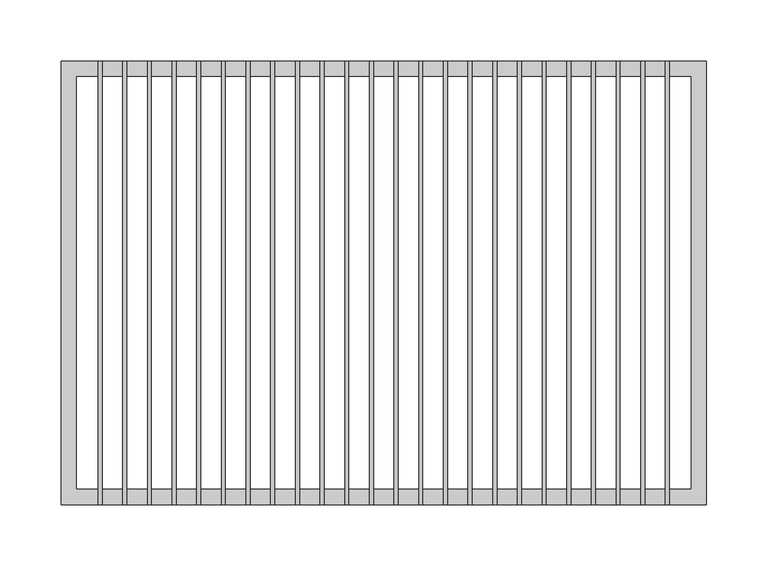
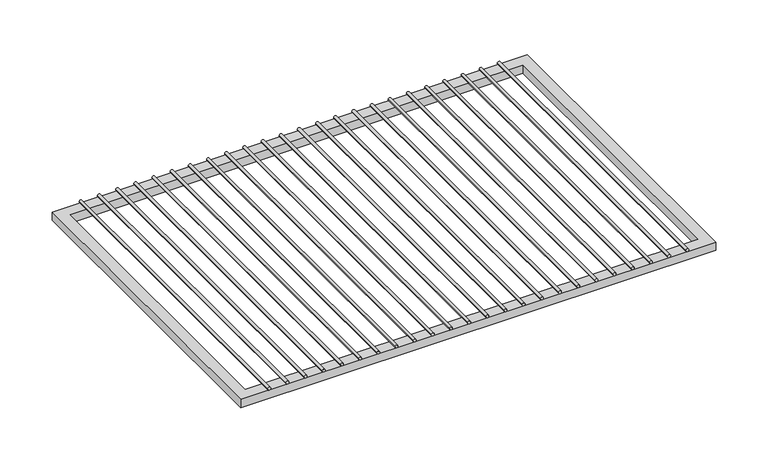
"""IFC4 building model written with IfcOpenShell, lengths in millimetres: furniture geometry, HermanMiller_CoStruc_CO252_CWireShelf : 14D x 20W."""

from ifc_helpers import new_model, si_unit, point, frame, frame_2d, origin, place, context, project, spatial, polyline, circle_curve, trimmed, segment, composite_curve, outline, extrude, source, transform, mapped, element, save


def furniture_0da3120b(model_context):
    return source(origin(), model_context, "Body", "SweptSolid", [
        extrude(outline(composite_curve([segment(trimmed(circle_curve(frame_2d((1147.7625, -211.6206522)), 1.5875), [point((1147.7625, -213.2081522))], [point((1147.7625, -210.0331522))], False, "CARTESIAN"), True, "CONTINUOUS"), segment(trimmed(circle_curve(frame_2d((1147.7625, -211.6206522)), 1.5875), [point((1147.7625, -210.0331522))], [point((1147.7625, -213.2081522))], False, "CARTESIAN"), True, "CONTINUOUS")], self_intersect=False)), frame((0.0, -180.975, 0.0), z_axis=(0.0, 1.0, 0.0), x_axis=(0.0, 0.0, 1.0)), (0.0, 0.0, 1.0), 361.95),
        extrude(outline(composite_curve([segment(trimmed(circle_curve(frame_2d((1147.7625, -191.4663043)), 1.5875), [point((1147.7625, -193.0538043))], [point((1147.7625, -189.8788043))], False, "CARTESIAN"), True, "CONTINUOUS"), segment(trimmed(circle_curve(frame_2d((1147.7625, -191.4663043)), 1.5875), [point((1147.7625, -189.8788043))], [point((1147.7625, -193.0538043))], False, "CARTESIAN"), True, "CONTINUOUS")], self_intersect=False)), frame((0.0, -180.975, 0.0), z_axis=(0.0, 1.0, 0.0), x_axis=(0.0, 0.0, 1.0)), (0.0, 0.0, 1.0), 361.95),
        extrude(outline(composite_curve([segment(trimmed(circle_curve(frame_2d((1147.7625, -171.3119565)), 1.5875), [point((1147.7625, -172.8994565))], [point((1147.7625, -169.7244565))], False, "CARTESIAN"), True, "CONTINUOUS"), segment(trimmed(circle_curve(frame_2d((1147.7625, -171.3119565)), 1.5875), [point((1147.7625, -169.7244565))], [point((1147.7625, -172.8994565))], False, "CARTESIAN"), True, "CONTINUOUS")], self_intersect=False)), frame((0.0, -180.975, 0.0), z_axis=(0.0, 1.0, 0.0), x_axis=(0.0, 0.0, 1.0)), (0.0, 0.0, 1.0), 361.95),
        extrude(outline(composite_curve([segment(trimmed(circle_curve(frame_2d((1147.7625, -151.1576087)), 1.5875), [point((1147.7625, -152.7451087))], [point((1147.7625, -149.5701087))], False, "CARTESIAN"), True, "CONTINUOUS"), segment(trimmed(circle_curve(frame_2d((1147.7625, -151.1576087)), 1.5875), [point((1147.7625, -149.5701087))], [point((1147.7625, -152.7451087))], False, "CARTESIAN"), True, "CONTINUOUS")], self_intersect=False)), frame((0.0, -180.975, 0.0), z_axis=(0.0, 1.0, 0.0), x_axis=(0.0, 0.0, 1.0)), (0.0, 0.0, 1.0), 361.95),
        extrude(outline(composite_curve([segment(trimmed(circle_curve(frame_2d((1147.7625, -131.0032609)), 1.5875), [point((1147.7625, -132.5907609))], [point((1147.7625, -129.4157609))], False, "CARTESIAN"), True, "CONTINUOUS"), segment(trimmed(circle_curve(frame_2d((1147.7625, -131.0032609)), 1.5875), [point((1147.7625, -129.4157609))], [point((1147.7625, -132.5907609))], False, "CARTESIAN"), True, "CONTINUOUS")], self_intersect=False)), frame((0.0, -180.975, 0.0), z_axis=(0.0, 1.0, 0.0), x_axis=(0.0, 0.0, 1.0)), (0.0, 0.0, 1.0), 361.95),
        extrude(outline(composite_curve([segment(trimmed(circle_curve(frame_2d((1147.7625, -110.848913)), 1.5875), [point((1147.7625, -112.436413))], [point((1147.7625, -109.261413))], False, "CARTESIAN"), True, "CONTINUOUS"), segment(trimmed(circle_curve(frame_2d((1147.7625, -110.848913)), 1.5875), [point((1147.7625, -109.261413))], [point((1147.7625, -112.436413))], False, "CARTESIAN"), True, "CONTINUOUS")], self_intersect=False)), frame((0.0, -180.975, 0.0), z_axis=(0.0, 1.0, 0.0), x_axis=(0.0, 0.0, 1.0)), (0.0, 0.0, 1.0), 361.95),
        extrude(outline(composite_curve([segment(trimmed(circle_curve(frame_2d((1147.7625, -90.6945652)), 1.5875), [point((1147.7625, -92.2820652))], [point((1147.7625, -89.1070652))], False, "CARTESIAN"), True, "CONTINUOUS"), segment(trimmed(circle_curve(frame_2d((1147.7625, -90.6945652)), 1.5875), [point((1147.7625, -89.1070652))], [point((1147.7625, -92.2820652))], False, "CARTESIAN"), True, "CONTINUOUS")], self_intersect=False)), frame((0.0, -180.975, 0.0), z_axis=(0.0, 1.0, 0.0), x_axis=(0.0, 0.0, 1.0)), (0.0, 0.0, 1.0), 361.95),
        extrude(outline(composite_curve([segment(trimmed(circle_curve(frame_2d((1147.7625, -70.5402174)), 1.5875), [point((1147.7625, -72.1277174))], [point((1147.7625, -68.9527174))], False, "CARTESIAN"), True, "CONTINUOUS"), segment(trimmed(circle_curve(frame_2d((1147.7625, -70.5402174)), 1.5875), [point((1147.7625, -68.9527174))], [point((1147.7625, -72.1277174))], False, "CARTESIAN"), True, "CONTINUOUS")], self_intersect=False)), frame((0.0, -180.975, 0.0), z_axis=(0.0, 1.0, 0.0), x_axis=(0.0, 0.0, 1.0)), (0.0, 0.0, 1.0), 361.95),
        extrude(outline(composite_curve([segment(trimmed(circle_curve(frame_2d((1147.7625, -50.3858696)), 1.5875), [point((1147.7625, -51.9733696))], [point((1147.7625, -48.7983696))], False, "CARTESIAN"), True, "CONTINUOUS"), segment(trimmed(circle_curve(frame_2d((1147.7625, -50.3858696)), 1.5875), [point((1147.7625, -48.7983696))], [point((1147.7625, -51.9733696))], False, "CARTESIAN"), True, "CONTINUOUS")], self_intersect=False)), frame((0.0, -180.975, 0.0), z_axis=(0.0, 1.0, 0.0), x_axis=(0.0, 0.0, 1.0)), (0.0, 0.0, 1.0), 361.95),
        extrude(outline(composite_curve([segment(trimmed(circle_curve(frame_2d((1147.7625, -30.2315217)), 1.5875), [point((1147.7625, -31.8190217))], [point((1147.7625, -28.6440217))], False, "CARTESIAN"), True, "CONTINUOUS"), segment(trimmed(circle_curve(frame_2d((1147.7625, -30.2315217)), 1.5875), [point((1147.7625, -28.6440217))], [point((1147.7625, -31.8190217))], False, "CARTESIAN"), True, "CONTINUOUS")], self_intersect=False)), frame((0.0, -180.975, 0.0), z_axis=(0.0, 1.0, 0.0), x_axis=(0.0, 0.0, 1.0)), (0.0, 0.0, 1.0), 361.95),
        extrude(outline(composite_curve([segment(trimmed(circle_curve(frame_2d((1147.7625, -10.0771739)), 1.5875), [point((1147.7625, -11.6646739))], [point((1147.7625, -8.4896739))], False, "CARTESIAN"), True, "CONTINUOUS"), segment(trimmed(circle_curve(frame_2d((1147.7625, -10.0771739)), 1.5875), [point((1147.7625, -8.4896739))], [point((1147.7625, -11.6646739))], False, "CARTESIAN"), True, "CONTINUOUS")], self_intersect=False)), frame((0.0, -180.975, 0.0), z_axis=(0.0, 1.0, 0.0), x_axis=(0.0, 0.0, 1.0)), (0.0, 0.0, 1.0), 361.95),
        extrude(outline(composite_curve([segment(trimmed(circle_curve(frame_2d((1147.7625, 10.0771739)), 1.5875), [point((1147.7625, 8.4896739))], [point((1147.7625, 11.6646739))], False, "CARTESIAN"), True, "CONTINUOUS"), segment(trimmed(circle_curve(frame_2d((1147.7625, 10.0771739)), 1.5875), [point((1147.7625, 11.6646739))], [point((1147.7625, 8.4896739))], False, "CARTESIAN"), True, "CONTINUOUS")], self_intersect=False)), frame((0.0, -180.975, 0.0), z_axis=(0.0, 1.0, 0.0), x_axis=(0.0, 0.0, 1.0)), (0.0, 0.0, 1.0), 361.95),
        extrude(outline(composite_curve([segment(trimmed(circle_curve(frame_2d((1147.7625, 30.2315217)), 1.5875), [point((1147.7625, 28.6440217))], [point((1147.7625, 31.8190217))], False, "CARTESIAN"), True, "CONTINUOUS"), segment(trimmed(circle_curve(frame_2d((1147.7625, 30.2315217)), 1.5875), [point((1147.7625, 31.8190217))], [point((1147.7625, 28.6440217))], False, "CARTESIAN"), True, "CONTINUOUS")], self_intersect=False)), frame((0.0, -180.975, 0.0), z_axis=(0.0, 1.0, 0.0), x_axis=(0.0, 0.0, 1.0)), (0.0, 0.0, 1.0), 361.95),
        extrude(outline(composite_curve([segment(trimmed(circle_curve(frame_2d((1147.7625, 50.3858696)), 1.5875), [point((1147.7625, 48.7983696))], [point((1147.7625, 51.9733696))], False, "CARTESIAN"), True, "CONTINUOUS"), segment(trimmed(circle_curve(frame_2d((1147.7625, 50.3858696)), 1.5875), [point((1147.7625, 51.9733696))], [point((1147.7625, 48.7983696))], False, "CARTESIAN"), True, "CONTINUOUS")], self_intersect=False)), frame((0.0, -180.975, 0.0), z_axis=(0.0, 1.0, 0.0), x_axis=(0.0, 0.0, 1.0)), (0.0, 0.0, 1.0), 361.95),
        extrude(outline(composite_curve([segment(trimmed(circle_curve(frame_2d((1147.7625, 70.5402174)), 1.5875), [point((1147.7625, 68.9527174))], [point((1147.7625, 72.1277174))], False, "CARTESIAN"), True, "CONTINUOUS"), segment(trimmed(circle_curve(frame_2d((1147.7625, 70.5402174)), 1.5875), [point((1147.7625, 72.1277174))], [point((1147.7625, 68.9527174))], False, "CARTESIAN"), True, "CONTINUOUS")], self_intersect=False)), frame((0.0, -180.975, 0.0), z_axis=(0.0, 1.0, 0.0), x_axis=(0.0, 0.0, 1.0)), (0.0, 0.0, 1.0), 361.95),
        extrude(outline(composite_curve([segment(trimmed(circle_curve(frame_2d((1147.7625, 90.6945652)), 1.5875), [point((1147.7625, 89.1070652))], [point((1147.7625, 92.2820652))], False, "CARTESIAN"), True, "CONTINUOUS"), segment(trimmed(circle_curve(frame_2d((1147.7625, 90.6945652)), 1.5875), [point((1147.7625, 92.2820652))], [point((1147.7625, 89.1070652))], False, "CARTESIAN"), True, "CONTINUOUS")], self_intersect=False)), frame((0.0, -180.975, 0.0), z_axis=(0.0, 1.0, 0.0), x_axis=(0.0, 0.0, 1.0)), (0.0, 0.0, 1.0), 361.95),
        extrude(outline(composite_curve([segment(trimmed(circle_curve(frame_2d((1147.7625, 110.848913)), 1.5875), [point((1147.7625, 109.261413))], [point((1147.7625, 112.436413))], False, "CARTESIAN"), True, "CONTINUOUS"), segment(trimmed(circle_curve(frame_2d((1147.7625, 110.848913)), 1.5875), [point((1147.7625, 112.436413))], [point((1147.7625, 109.261413))], False, "CARTESIAN"), True, "CONTINUOUS")], self_intersect=False)), frame((0.0, -180.975, 0.0), z_axis=(0.0, 1.0, 0.0), x_axis=(0.0, 0.0, 1.0)), (0.0, 0.0, 1.0), 361.95),
        extrude(outline(composite_curve([segment(trimmed(circle_curve(frame_2d((1147.7625, 131.0032609)), 1.5875), [point((1147.7625, 129.4157609))], [point((1147.7625, 132.5907609))], False, "CARTESIAN"), True, "CONTINUOUS"), segment(trimmed(circle_curve(frame_2d((1147.7625, 131.0032609)), 1.5875), [point((1147.7625, 132.5907609))], [point((1147.7625, 129.4157609))], False, "CARTESIAN"), True, "CONTINUOUS")], self_intersect=False)), frame((0.0, -180.975, 0.0), z_axis=(0.0, 1.0, 0.0), x_axis=(0.0, 0.0, 1.0)), (0.0, 0.0, 1.0), 361.95),
        extrude(outline(composite_curve([segment(trimmed(circle_curve(frame_2d((1147.7625, 151.1576087)), 1.5875), [point((1147.7625, 149.5701087))], [point((1147.7625, 152.7451087))], False, "CARTESIAN"), True, "CONTINUOUS"), segment(trimmed(circle_curve(frame_2d((1147.7625, 151.1576087)), 1.5875), [point((1147.7625, 152.7451087))], [point((1147.7625, 149.5701087))], False, "CARTESIAN"), True, "CONTINUOUS")], self_intersect=False)), frame((0.0, -180.975, 0.0), z_axis=(0.0, 1.0, 0.0), x_axis=(0.0, 0.0, 1.0)), (0.0, 0.0, 1.0), 361.95),
        extrude(outline(composite_curve([segment(trimmed(circle_curve(frame_2d((1147.7625, 171.3119565)), 1.5875), [point((1147.7625, 169.7244565))], [point((1147.7625, 172.8994565))], False, "CARTESIAN"), True, "CONTINUOUS"), segment(trimmed(circle_curve(frame_2d((1147.7625, 171.3119565)), 1.5875), [point((1147.7625, 172.8994565))], [point((1147.7625, 169.7244565))], False, "CARTESIAN"), True, "CONTINUOUS")], self_intersect=False)), frame((0.0, -180.975, 0.0), z_axis=(0.0, 1.0, 0.0), x_axis=(0.0, 0.0, 1.0)), (0.0, 0.0, 1.0), 361.95),
        extrude(outline(composite_curve([segment(trimmed(circle_curve(frame_2d((1147.7625, 191.4663043)), 1.5875), [point((1147.7625, 189.8788043))], [point((1147.7625, 193.0538043))], False, "CARTESIAN"), True, "CONTINUOUS"), segment(trimmed(circle_curve(frame_2d((1147.7625, 191.4663043)), 1.5875), [point((1147.7625, 193.0538043))], [point((1147.7625, 189.8788043))], False, "CARTESIAN"), True, "CONTINUOUS")], self_intersect=False)), frame((0.0, -180.975, 0.0), z_axis=(0.0, 1.0, 0.0), x_axis=(0.0, 0.0, 1.0)), (0.0, 0.0, 1.0), 361.95),
        extrude(outline(composite_curve([segment(trimmed(circle_curve(frame_2d((1147.7625, 211.6206522)), 1.5875), [point((1147.7625, 210.0331522))], [point((1147.7625, 213.2081522))], False, "CARTESIAN"), True, "CONTINUOUS"), segment(trimmed(circle_curve(frame_2d((1147.7625, 211.6206522)), 1.5875), [point((1147.7625, 213.2081522))], [point((1147.7625, 210.0331522))], False, "CARTESIAN"), True, "CONTINUOUS")], self_intersect=False)), frame((0.0, -180.975, 0.0), z_axis=(0.0, 1.0, 0.0), x_axis=(0.0, 0.0, 1.0)), (0.0, 0.0, 1.0), 361.95),
        extrude(outline(composite_curve([segment(trimmed(circle_curve(frame_2d((1147.7625, -231.775)), 1.5875), [point((1147.7625, -233.3625))], [point((1147.7625, -230.1875))], False, "CARTESIAN"), True, "CONTINUOUS"), segment(trimmed(circle_curve(frame_2d((1147.7625, -231.775)), 1.5875), [point((1147.7625, -230.1875))], [point((1147.7625, -233.3625))], False, "CARTESIAN"), True, "CONTINUOUS")], self_intersect=False)), frame((0.0, -180.975, 0.0), z_axis=(0.0, 1.0, 0.0), x_axis=(0.0, 0.0, 1.0)), (0.0, 0.0, 1.0), 361.95),
        extrude(outline(composite_curve([segment(trimmed(circle_curve(frame_2d((1147.7625, 231.775)), 1.5875), [point((1147.7625, 230.1875))], [point((1147.7625, 233.3625))], False, "CARTESIAN"), True, "CONTINUOUS"), segment(trimmed(circle_curve(frame_2d((1147.7625, 231.775)), 1.5875), [point((1147.7625, 233.3625))], [point((1147.7625, 230.1875))], False, "CARTESIAN"), True, "CONTINUOUS")], self_intersect=False)), frame((0.0, -180.975, 0.0), z_axis=(0.0, 1.0, 0.0), x_axis=(0.0, 0.0, 1.0)), (0.0, 0.0, 1.0), 361.95),
        extrude(outline(polyline([(-263.525, -180.975), (-263.525, 180.975), (263.525, 180.975), (263.525, -180.975), (-263.525, -180.975)]), holes=[polyline([(-250.825, -168.275), (250.825, -168.275), (250.825, 168.275), (-250.825, 168.275), (-250.825, -168.275)])]), frame((0.0, 0.0, 1136.65), z_axis=(0.0, 0.0, 1.0), x_axis=(1.0, 0.0, 0.0)), (0.0, 0.0, 1.0), 9.525),
    ])


if __name__ == "__main__":
    model = new_model("IFC4")
    model_context = context("Model", 3, world=origin())
    ifc_project = project(units=[si_unit("LENGTHUNIT", "METRE", prefix="MILLI")], contexts=[model_context])
    site = spatial("IfcSite", under=ifc_project)
    building = spatial("IfcBuilding", under=site)
    placement = place(None, origin())
    furniture_shape = furniture_0da3120b(model_context)
    element("IfcFurniture", 1, ObjectType="HermanMiller_CoStruc_CO252_CWireShelf : 14D x 20W", at=placement, inside=building, context=model_context, shape_type="MappedRepresentation", body=[
        mapped(furniture_shape, transform((0.0, 0.0, 0.0), x_axis=(1.0, 0.0, 0.0), y_axis=(0.0, 1.0, 0.0), z_axis=(0.0, 0.0, 1.0))),
    ])
    save(model, "model.ifc")
